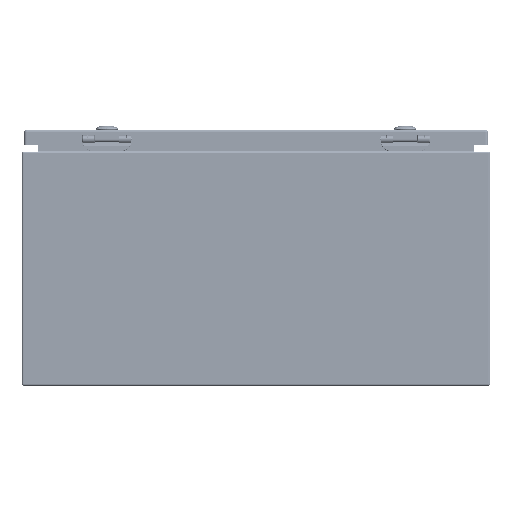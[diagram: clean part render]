
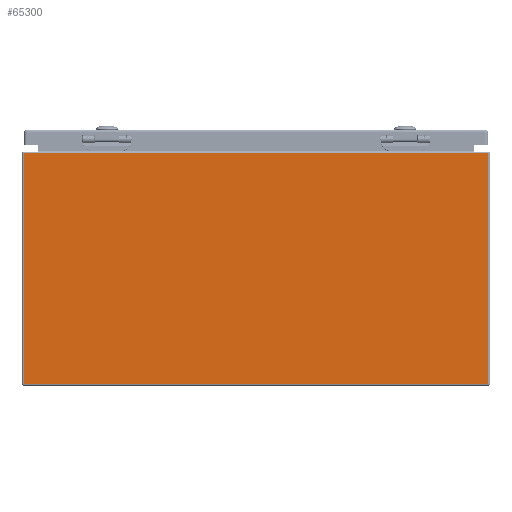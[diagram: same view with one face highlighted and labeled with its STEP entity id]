
A CAD part, left-side view. The second image highlights one B-rep face of the part: STEP entity #65300.
In plain terms, the highlighted planar face has unit normal (-1, 0, 0).
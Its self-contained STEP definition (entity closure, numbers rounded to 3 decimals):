
#6339=LINE('',#91465,#10376);
#6350=LINE('',#91506,#10387);
#6354=LINE('',#91521,#10391);
#6355=LINE('',#91522,#10392);
#10376=VECTOR('',#76008,0.394);
#10387=VECTOR('',#76057,0.394);
#10391=VECTOR('',#76075,0.394);
#10392=VECTOR('',#76076,0.394);
#15456=FACE_OUTER_BOUND('',#19466,.T.);
#19466=EDGE_LOOP('',(#43439,#43440,#43441,#43442));
#26175=VERTEX_POINT('',#91458);
#26176=VERTEX_POINT('',#91463);
#26187=VERTEX_POINT('',#91505);
#26191=VERTEX_POINT('',#91520);
#32848=EDGE_CURVE('',#26176,#26175,#6339,.T.);
#32868=EDGE_CURVE('',#26175,#26187,#6350,.T.);
#32876=EDGE_CURVE('',#26191,#26176,#6354,.T.);
#32877=EDGE_CURVE('',#26191,#26187,#6355,.T.);
#43439=ORIENTED_EDGE('',*,*,#32848,.F.);
#43440=ORIENTED_EDGE('',*,*,#32876,.F.);
#43441=ORIENTED_EDGE('',*,*,#32877,.T.);
#43442=ORIENTED_EDGE('',*,*,#32868,.F.);
#63904=PLANE('',#70205);
#65300=ADVANCED_FACE('',(#15456),#63904,.F.);
#70205=AXIS2_PLACEMENT_3D('',#91519,#76073,#76074);
#76008=DIRECTION('',(0.,-1.,0.));
#76057=DIRECTION('',(0.,0.,-1.));
#76073=DIRECTION('center_axis',(1.,0.,0.));
#76074=DIRECTION('ref_axis',(0.,0.,-1.));
#76075=DIRECTION('',(0.,0.,1.));
#76076=DIRECTION('',(0.,-1.,0.));
#91458=CARTESIAN_POINT('',(-12.,-11.916,11.916));
#91463=CARTESIAN_POINT('',(-12.,11.916,11.916));
#91465=CARTESIAN_POINT('',(-12.,-5.979,11.916));
#91505=CARTESIAN_POINT('',(-12.,-11.916,0.084));
#91506=CARTESIAN_POINT('',(-12.,-11.916,6.));
#91519=CARTESIAN_POINT('Origin',(-12.,0.,6.));
#91520=CARTESIAN_POINT('',(-12.,11.916,0.084));
#91521=CARTESIAN_POINT('',(-12.,11.916,6.));
#91522=CARTESIAN_POINT('',(-12.,6.,0.084));
